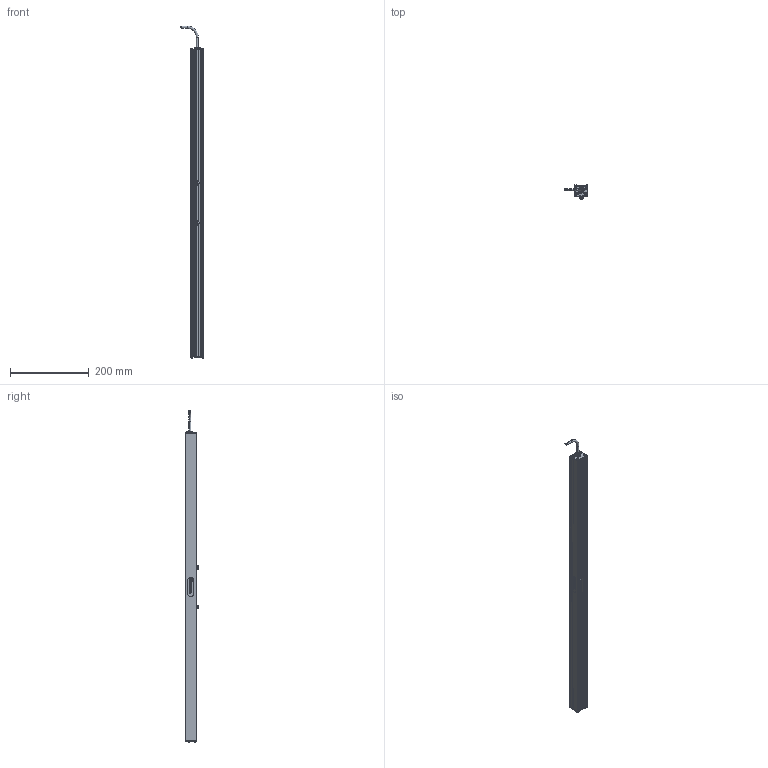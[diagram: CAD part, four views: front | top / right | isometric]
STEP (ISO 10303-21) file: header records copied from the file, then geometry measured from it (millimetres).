
FILE_DESCRIPTION (( 'STEP AP214' ), '1' );
FILE_NAME ('LL174 _NONSELAED__LL17430.stp', '2021-04-29T15:30:25', ( '' ), ( '' ), 'SwSTEP 2.0', 'SolidWorks 2018', '' );
FILE_SCHEMA (( 'AUTOMOTIVE_DESIGN' ));
Length unit declared in the file: inch
Products named in the file (12): 090928-XXX_090928-030; LL174 _NONSELAED__LL17430; 092408_TRUNCATED; CHM6x8_91460A312; 096591-XX_096591-30; 091053; 116-02-006; HN-M6_90592A016; 093145_93701A253; 1157 (no strap); 116-02-007
Assembly tree (21 placements, depth 3):
  LL174 _NONSELAED__LL17430
    096591-XX_096591-30
    116-02-007
    1157 (no strap)
    093145_93701A253  x8
    HN-M6_90592A016  x2
    CHM6x8_91460A312  x2
    090928-XXX_090928-030
    116-02-006
    091053  x2
      091053
    092408_TRUNCATED
Bounding box: 60.69 x 35.06 x 843.46 mm (x, y, z)
Volume: 270729.2 mm3; surface area: 266934.8 mm2
Topology: 28 solids, 28 shells, 1802 faces, 4720 edges, 2983 vertices
Faces by surface type: cylinder 839, plane 545, cone 249, bspline 102, torus 59, sphere 8
Entity records: 31047 total; most frequent: CARTESIAN_POINT 9882, ORIENTED_EDGE 3780, DIRECTION 3351, EDGE_CURVE 1890, VERTEX_POINT 1228, AXIS2_PLACEMENT_3D 1132, VECTOR 1087, LINE 1087
